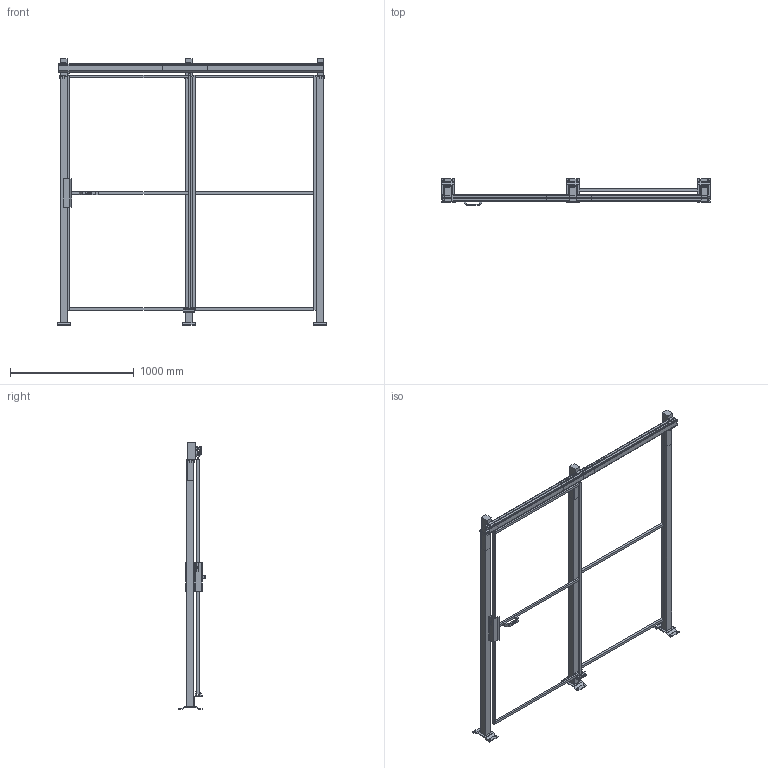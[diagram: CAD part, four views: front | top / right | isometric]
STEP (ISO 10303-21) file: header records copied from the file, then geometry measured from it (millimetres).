
FILE_DESCRIPTION(/* description */ (''),/* implementation_level */ '2;1');
FILE_NAME(/* name */ 'C:\SafeGuarding\ELABORATI\VZOR§POSUVNE_1950x2320_2025-02-13-13-09-20.stp',/* time_stamp */ '2025-02-13T13:09:26+01:00',/* author */ ('admin'),/* organization */ (''),/* preprocessor_version */ 'ST-DEVELOPER v18.1',/* originating_system */ 'AutoCAD Mechanical',/* authorisation */ '');
FILE_SCHEMA (('AUTOMOTIVE_DESIGN { 1 0 10303 214 3 1 1 }'));
Length unit declared in the file: millimetre
Products named in the file (4): Product; R_VFPA.REPE20.10001900; DATI_PORTA; P_VFMA.ME60SDU.2020
Assembly tree (6 placements, depth 2):
  Product
    P_VFMA.ME60SDU.2020  x3
    R_VFPA.REPE20.10001900  x2
    DATI_PORTA
Bounding box: 2170 x 219.95 x 2154 mm (x, y, z)
Volume: 33530416.3 mm3; surface area: 4212868.4 mm2
Topology: 35 solids, 46 shells, 482 faces, 1554 edges, 1492 vertices
Faces by surface type: plane 442, cylinder 38, sphere 2
Full cylindrical faces by diameter (mm): 11 x12, 12 x2, 15 x4, 40 x4
Entity records: 12044 total; most frequent: CARTESIAN_POINT 2553, DIRECTION 1819, ORIENTED_EDGE 1758, EDGE_CURVE 928, LINE 871, VECTOR 871, VERTEX_POINT 660, AXIS2_PLACEMENT_3D 474
